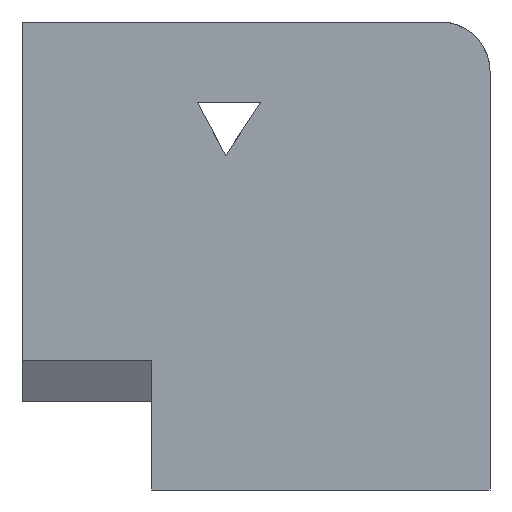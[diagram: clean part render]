
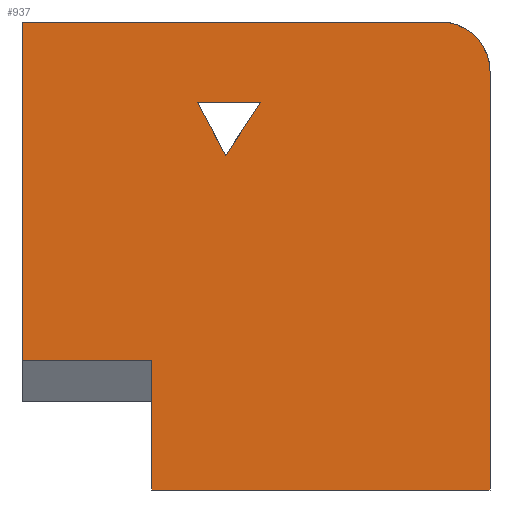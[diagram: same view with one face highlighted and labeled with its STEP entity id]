
A CAD part, front view. The second image highlights one B-rep face of the part: STEP entity #937.
In plain terms, the highlighted planar face has unit normal (0, -1, 0).
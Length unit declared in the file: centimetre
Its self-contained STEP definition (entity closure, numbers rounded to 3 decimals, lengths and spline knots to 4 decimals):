
#2 = VERTEX_POINT ( 'NONE', #1279 ) ;
#3 = VERTEX_POINT ( 'NONE', #811 ) ;
#48 = DIRECTION ( 'NONE',  ( 1., 0., 0. ) ) ;
#92 = DIRECTION ( 'NONE',  ( -0.552, 0., -0.834 ) ) ;
#112 = CARTESIAN_POINT ( 'NONE',  ( 893.8927, 0., 893.8927 ) ) ;
#117 = DIRECTION ( 'NONE',  ( 0., 0., -1. ) ) ;
#138 = FACE_BOUND ( 'NONE', #906, .T. ) ;
#140 = EDGE_CURVE ( 'NONE', #894, #758, #1086, .T. ) ;
#144 = VECTOR ( 'NONE', #621, 100. ) ;
#145 = DIRECTION ( 'NONE',  ( 0., 0., 1. ) ) ;
#178 = LINE ( 'NONE', #880, #405 ) ;
#204 = LINE ( 'NONE', #547, #975 ) ;
#217 = DIRECTION ( 'NONE',  ( 0., 0., 1. ) ) ;
#226 = EDGE_CURVE ( 'NONE', #781, #1285, #178, .T. ) ;
#239 = CARTESIAN_POINT ( 'NONE',  ( 0., 0., 1000. ) ) ;
#301 = VERTEX_POINT ( 'NONE', #1144 ) ;
#309 = CARTESIAN_POINT ( 'NONE',  ( 276.7741, 0., 277.195 ) ) ;
#317 = DIRECTION ( 'NONE',  ( 1., 0., 0. ) ) ;
#320 = EDGE_LOOP ( 'NONE', ( #617, #1295, #785, #1302, #677, #1407, #1205 ) ) ;
#366 = PLANE ( 'NONE',  #984 ) ;
#375 = VECTOR ( 'NONE', #117, 100. ) ;
#405 = VECTOR ( 'NONE', #771, 100. ) ;
#474 = CARTESIAN_POINT ( 'NONE',  ( 0., 0., 1000. ) ) ;
#497 = LINE ( 'NONE', #917, #375 ) ;
#547 = CARTESIAN_POINT ( 'NONE',  ( 276.7741, 0., 277.195 ) ) ;
#552 = EDGE_CURVE ( 'NONE', #2, #953, #823, .T. ) ;
#557 = CARTESIAN_POINT ( 'NONE',  ( 0., 0., 1000. ) ) ;
#579 = LINE ( 'NONE', #913, #1248 ) ;
#585 = ORIENTED_EDGE ( 'NONE', *, *, #1365, .T. ) ;
#617 = ORIENTED_EDGE ( 'NONE', *, *, #140, .T. ) ;
#621 = DIRECTION ( 'NONE',  ( 0., 0., 1. ) ) ;
#653 = DIRECTION ( 'NONE',  ( 0., 0., -1. ) ) ;
#677 = ORIENTED_EDGE ( 'NONE', *, *, #1332, .F. ) ;
#705 = DIRECTION ( 'NONE',  ( -0.472, 0., 0.882 ) ) ;
#708 = CARTESIAN_POINT ( 'NONE',  ( 509.7132, 0., 827.7446 ) ) ;
#731 = VERTEX_POINT ( 'NONE', #309 ) ;
#758 = VERTEX_POINT ( 'NONE', #1367 ) ;
#764 = DIRECTION ( 'NONE',  ( -1., 0., 0. ) ) ;
#768 = VECTOR ( 'NONE', #653, 100. ) ;
#771 = DIRECTION ( 'NONE',  ( 1., 0., 0. ) ) ;
#775 = VECTOR ( 'NONE', #317, 100. ) ;
#781 = VERTEX_POINT ( 'NONE', #1023 ) ;
#785 = ORIENTED_EDGE ( 'NONE', *, *, #1379, .F. ) ;
#798 = EDGE_CURVE ( 'NONE', #301, #3, #1155, .T. ) ;
#807 = CARTESIAN_POINT ( 'NONE',  ( 435.1729, 0., 715.2006 ) ) ;
#811 = CARTESIAN_POINT ( 'NONE',  ( 893.8927, 0., 1000. ) ) ;
#813 = VECTOR ( 'NONE', #48, 100. ) ;
#823 = LINE ( 'NONE', #1283, #813 ) ;
#880 = CARTESIAN_POINT ( 'NONE',  ( 0., 0., 0. ) ) ;
#894 = VERTEX_POINT ( 'NONE', #474 ) ;
#906 = EDGE_LOOP ( 'NONE', ( #1383, #585, #1213 ) ) ;
#913 = CARTESIAN_POINT ( 'NONE',  ( 374.9771, 0., 827.7446 ) ) ;
#917 = CARTESIAN_POINT ( 'NONE',  ( 1000., 0., 1000. ) ) ;
#937 = ADVANCED_FACE ( 'NONE', ( #138, #939 ), #366, .F. ) ;
#939 = FACE_OUTER_BOUND ( 'NONE', #320, .T. ) ;
#942 = VERTEX_POINT ( 'NONE', #807 ) ;
#953 = VERTEX_POINT ( 'NONE', #708 ) ;
#975 = VECTOR ( 'NONE', #764, 100. ) ;
#983 = CARTESIAN_POINT ( 'NONE',  ( 0., 0., 1000. ) ) ;
#984 = AXIS2_PLACEMENT_3D ( 'NONE', #239, #1282, #145 ) ;
#1004 = CARTESIAN_POINT ( 'NONE',  ( 435.1729, 0., 715.2006 ) ) ;
#1023 = CARTESIAN_POINT ( 'NONE',  ( 276.7741, 0., 0. ) ) ;
#1037 = CARTESIAN_POINT ( 'NONE',  ( 276.7741, 0., 277.195 ) ) ;
#1086 = LINE ( 'NONE', #983, #768 ) ;
#1108 = LINE ( 'NONE', #1004, #1353 ) ;
#1127 = EDGE_CURVE ( 'NONE', #953, #942, #1108, .T. ) ;
#1139 = EDGE_CURVE ( 'NONE', #894, #3, #1452, .T. ) ;
#1143 = DIRECTION ( 'NONE',  ( 0., -1., 0. ) ) ;
#1144 = CARTESIAN_POINT ( 'NONE',  ( 1000., 0., 893.8927 ) ) ;
#1155 = CIRCLE ( 'NONE', #1254, 106.1073 ) ;
#1158 = LINE ( 'NONE', #1037, #144 ) ;
#1205 = ORIENTED_EDGE ( 'NONE', *, *, #1139, .F. ) ;
#1213 = ORIENTED_EDGE ( 'NONE', *, *, #552, .T. ) ;
#1248 = VECTOR ( 'NONE', #705, 100. ) ;
#1254 = AXIS2_PLACEMENT_3D ( 'NONE', #112, #1143, #217 ) ;
#1279 = CARTESIAN_POINT ( 'NONE',  ( 374.9771, 0., 827.7446 ) ) ;
#1282 = DIRECTION ( 'NONE',  ( 0., 1., 0. ) ) ;
#1283 = CARTESIAN_POINT ( 'NONE',  ( 509.7132, 0., 827.7446 ) ) ;
#1285 = VERTEX_POINT ( 'NONE', #1301 ) ;
#1295 = ORIENTED_EDGE ( 'NONE', *, *, #1411, .F. ) ;
#1301 = CARTESIAN_POINT ( 'NONE',  ( 1000., 0., 0. ) ) ;
#1302 = ORIENTED_EDGE ( 'NONE', *, *, #226, .T. ) ;
#1332 = EDGE_CURVE ( 'NONE', #301, #1285, #497, .T. ) ;
#1353 = VECTOR ( 'NONE', #92, 100. ) ;
#1365 = EDGE_CURVE ( 'NONE', #942, #2, #579, .T. ) ;
#1367 = CARTESIAN_POINT ( 'NONE',  ( 0., 0., 277.195 ) ) ;
#1379 = EDGE_CURVE ( 'NONE', #781, #731, #1158, .T. ) ;
#1383 = ORIENTED_EDGE ( 'NONE', *, *, #1127, .T. ) ;
#1407 = ORIENTED_EDGE ( 'NONE', *, *, #798, .T. ) ;
#1411 = EDGE_CURVE ( 'NONE', #731, #758, #204, .T. ) ;
#1452 = LINE ( 'NONE', #557, #775 ) ;
